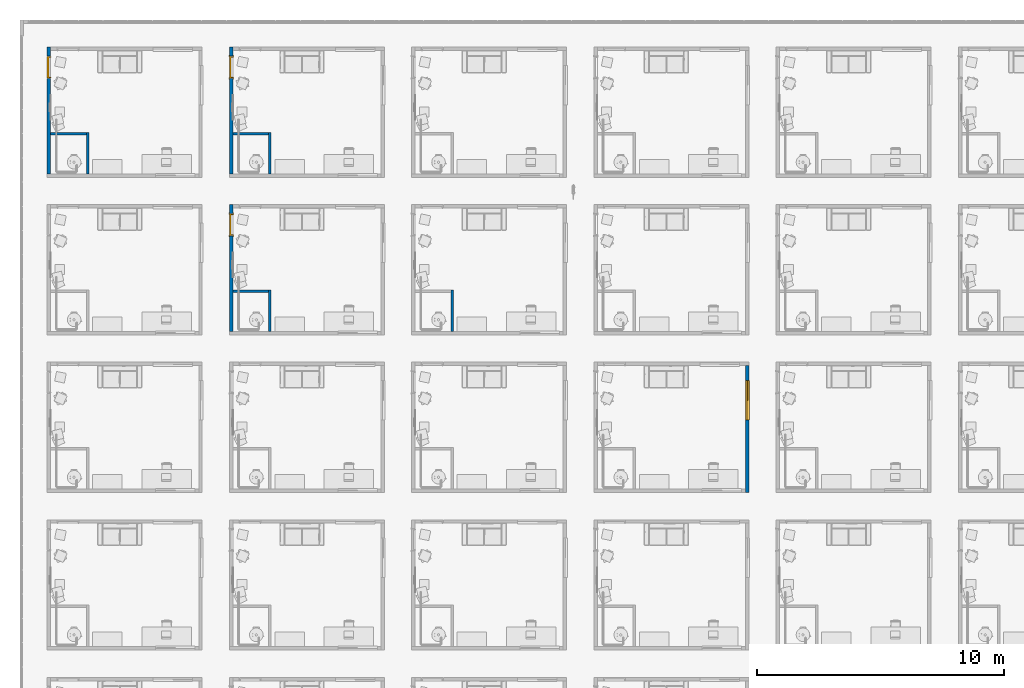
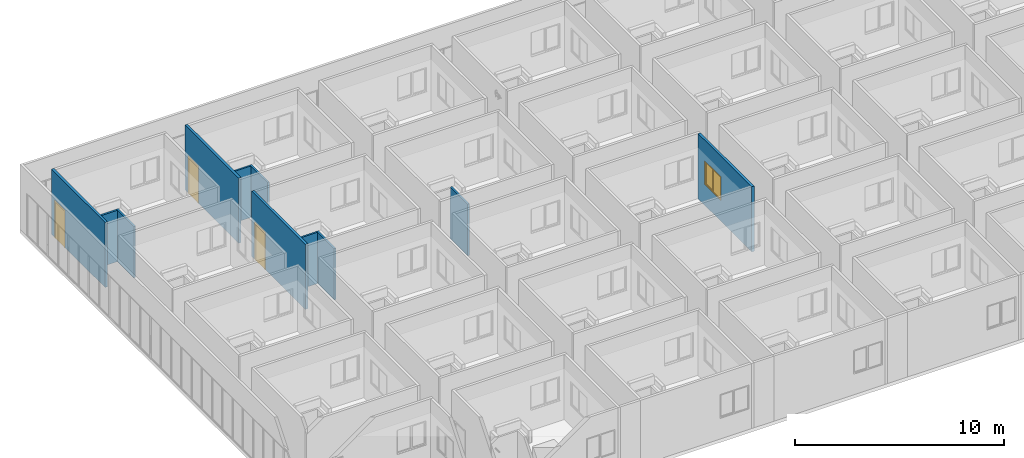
# One storey, part 7 of 69: 11 walls, 3 doors, 1 window, 4 openings.
"""IFC4 building model written with IfcOpenShell, lengths in centimetres."""

from ifc_helpers import new_model, entity, si_unit, converted_unit, derived_unit, direction, frame, origin, place, context, subcontext, project, spatial, indexed_curve, outline, extrude, polygons, source, transform, mapped, material, constituent, constituent_set, type_object, type_shapes, element, fill, save


model = new_model("IFC4")

# Units and contexts
model_context = context("Model", 3, precision=0.001, world=origin(), true_north=direction((6.123233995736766e-17, 1.0)))
body_context = subcontext(model_context, "Body", "Model", "MODEL_VIEW")
ifc_project = project(units=[si_unit("LENGTHUNIT", "METRE", prefix="CENTI"), si_unit("AREAUNIT", "SQUARE_METRE"), si_unit("VOLUMEUNIT", "CUBIC_METRE"), derived_unit("THERMALTRANSMITTANCEUNIT", [(si_unit("MASSUNIT", "GRAM", prefix="KILO"), 1), (si_unit("THERMODYNAMICTEMPERATUREUNIT", "KELVIN"), -1), (si_unit("TIMEUNIT", "SECOND"), -3)]), converted_unit("PLANEANGLEUNIT", "DEGREE", entity("IfcPlaneAngleMeasure", 0.017453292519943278), si_unit("PLANEANGLEUNIT", "RADIAN"), dimensions=[0, 0, 0, 0, 0, 0, 0]), derived_unit("MASSDENSITYUNIT", [(si_unit("MASSUNIT", "GRAM", prefix="KILO"), 1), (si_unit("LENGTHUNIT", "METRE"), -3)]), derived_unit("VAPORPERMEABILITYUNIT", [(si_unit("LENGTHUNIT", "METRE"), -1), (si_unit("TIMEUNIT", "SECOND"), 1)]), derived_unit("USERDEFINED", [(si_unit("MASSUNIT", "GRAM", prefix="KILO"), 1), (si_unit("TIMEUNIT", "SECOND"), -3), (si_unit("LENGTHUNIT", "METRE"), 3), (si_unit("ELECTRICCURRENTUNIT", "AMPERE"), -2)]), derived_unit("SPECIFICHEATCAPACITYUNIT", [(si_unit("THERMODYNAMICTEMPERATUREUNIT", "KELVIN"), -1), (si_unit("LENGTHUNIT", "METRE"), 2), (si_unit("TIMEUNIT", "SECOND"), -2)]), derived_unit("THERMALCONDUCTANCEUNIT", [(si_unit("MASSUNIT", "GRAM", prefix="KILO"), 1), (si_unit("THERMODYNAMICTEMPERATUREUNIT", "KELVIN"), -1), (si_unit("TIMEUNIT", "SECOND"), -3), (si_unit("LENGTHUNIT", "METRE"), 1)]), si_unit("PRESSUREUNIT", "PASCAL"), derived_unit("MODULUSOFELASTICITYUNIT", [(si_unit("MASSUNIT", "GRAM", prefix="KILO"), 1), (si_unit("LENGTHUNIT", "METRE"), -1), (si_unit("TIMEUNIT", "SECOND"), -2)]), derived_unit("THERMALEXPANSIONCOEFFICIENTUNIT", [(si_unit("THERMODYNAMICTEMPERATUREUNIT", "KELVIN"), -1)])], contexts=[model_context])

# Site, building, storey
site_placement = place(None, origin())
site = spatial("IfcSite", under=ifc_project, at=site_placement, Name="Default", CompositionType="ELEMENT")
building_placement = place(site_placement, origin())
building = spatial("IfcBuilding", under=site, at=building_placement, Name="IDS Escape Game Building", CompositionType="ELEMENT")
storey_placement = place(building_placement, origin())
storey = spatial("IfcBuildingStorey", under=building, at=storey_placement, Name="00_Ground Floor", CompositionType="ELEMENT", Elevation=0.0)

# Wall, opening, window
ifc_material_1 = material(Name="ARC_FME.g2_Fg2 Masonry_00_gen_BERSnl", Category="g - klei")
wall_type_1 = type_object("IfcWallType", Name="Basic Wall:ARC_22.10_WA_LB_SB14_gen_BERSnl", PredefinedType="STANDARD")
wall_1_placement = place(storey_placement, frame((2828.0, 1275.0, 0.0), z_axis=(0.0, 0.0, 1.0), x_axis=(0.0, 1.0, 0.0)))
wall_1 = element("IfcWall", 1, at=wall_1_placement, inside=storey, type_object=wall_type_1, material=ifc_material_1, Name="Basic Wall:ARC_22.10_WA_LB_SB14_gen_BERSnl", ObjectType="Basic Wall:ARC_22.10_WA_LB_SB14_gen_BERSnl", PredefinedType="NOTDEFINED", context=body_context, shape_type="Tessellation", body=[
    polygons([(0.0, -6.999999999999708, 0.0), (514.0000000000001, -6.999999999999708, 0.0), (514.0000000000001, -6.999999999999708, 380.0), (0.0, -6.999999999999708, 380.0), (454.0000000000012, -6.999999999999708, 260.00000000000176), (454.00000000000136, -6.999999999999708, 120.0), (294.00000000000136, -6.999999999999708, 120.00000000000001), (294.00000000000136, -6.999999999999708, 260.00000000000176), (454.00000000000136, 7.000000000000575, 120.0), (454.00000000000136, 7.000000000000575, 260.0000000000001), (294.00000000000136, 7.000000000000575, 260.0000000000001), (294.00000000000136, 7.000000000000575, 120.00000000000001), (0.0, 7.000000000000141, 0.0), (0.0, 7.000000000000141, 380.0), (14.000000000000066, 7.000000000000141, 380.0), (514.0000000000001, 7.000000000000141, 380.0), (514.0000000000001, 7.000000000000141, 0.0), (14.000000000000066, 7.000000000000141, 0.0)], [[[1, 2, 3, 4], [5, 6, 7, 8]], [[13, 14, 15, 16, 17, 18], [9, 10, 11, 12]], [[2, 1, 13, 18, 17]], [[4, 3, 16, 15, 14]], [[10, 9, 6, 5]], [[7, 12, 11, 8]], [[10, 5, 8, 11]], [[12, 7, 6, 9]], [[1, 4, 14, 13]], [[3, 2, 17, 16]]], closed=True),
])
opening_1_placement = place(wall_1_placement, frame((-1275.0, 2828.0, 120.0), z_axis=(0.0, 0.0, 1.0), x_axis=(0.0, -1.0, 0.0)))
opening_1 = element("IfcOpeningElement", 2, at=opening_1_placement, cuts=wall_1, Name="Basic Wall:ARC_22.10_WA_LB_SB14_gen_BERSnl", PredefinedType="OPENING", context=body_context, shape_type="Tessellation", body=[
    polygons([(2820.999999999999, 1729.0000000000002, 0.0), (2820.999999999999, 1729.0000000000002, -1.0), (2815.999999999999, 1729.0000000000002, -1.0), (2815.999999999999, 1729.0000000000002, 0.0), (2820.999999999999, 1569.0000000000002, 0.0), (2815.999999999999, 1569.0000000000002, 0.0), (2815.999999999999, 1569.0000000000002, -1.0), (2820.999999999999, 1569.0000000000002, -1.0), (2820.9999999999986, 1724.0000000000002, 0.0), (2820.9999999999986, 1574.0000000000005, 0.0), (2815.9999999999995, 1574.0000000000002, 0.0), (2815.999999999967, 1574.0000000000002, 134.9999999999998), (2815.999999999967, 1724.0000000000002, 134.9999999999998), (2815.9999999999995, 1724.0000000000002, 0.0), (2840.036825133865, 1729.0000000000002, 0.0), (2820.999999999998, 1729.0000000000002, 0.0), (2820.999999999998, 1729.0000000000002, 140.00000000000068), (2840.036825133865, 1729.0000000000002, 140.00000000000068), (2840.036825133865, 1569.0000000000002, 140.0000000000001), (2820.999999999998, 1569.0000000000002, 140.0000000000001), (2820.9999999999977, 1569.0000000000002, 0.0), (2840.036825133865, 1569.0000000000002, 0.0), (2820.999999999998, 1724.0000000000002, 134.9999999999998), (2820.999999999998, 1574.0000000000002, 134.9999999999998)], [[[1, 2, 3, 4]], [[5, 6, 7, 8]], [[1, 9, 10, 5, 8, 2]], [[2, 8, 7, 3]], [[3, 7, 6, 11, 12, 13, 14, 4]], [[4, 14, 9, 1]], [[15, 16, 17, 18]], [[19, 20, 21, 22]], [[18, 17, 20, 19]], [[18, 19, 22, 15]], [[17, 16, 9, 23, 24, 10, 21, 20]], [[22, 21, 10, 9, 16, 15]], [[11, 10, 24, 12]], [[13, 23, 9, 14]], [[12, 24, 23, 13]], [[5, 10, 11, 6]]], closed=True),
])
ifc_material_2 = material(Name="<Unnamed>")
ifc_constituent_1 = constituent(ifc_material_2, Name="<Unnamed>", fraction=0.0)
ifc_material_3 = material(Name="ARC_FME.o1_glass_00_gen_BERSnl", Category="o - glas")
ifc_constituent_2 = constituent(ifc_material_3, Name="ARC_FME.o1_glass_00_gen_BERSnl", Category="o - glas", fraction=1.0)
ifc_constituent_set_1 = constituent_set(constituents=[ifc_constituent_1, ifc_constituent_2])
ifc_constituent_3 = constituent(ifc_material_2, Name="BE Tablet", fraction=0.0)
ifc_constituent_4 = constituent(ifc_material_2, Name="Frame/Mullion", fraction=0.0)
ifc_constituent_5 = constituent(ifc_material_3, Name="Glass", Category="o - glas", fraction=1.0)
ifc_constituent_set_2 = constituent_set(constituents=[ifc_constituent_3, ifc_constituent_4, ifc_constituent_5])
window_type = type_object("IfcWindowType", Name="ARC_31_WI_WB_Dubbel Raam-Recht-Vast en Draaiend_gen_BERSnl:Links-Draaiend / Rechts-Draaiend", PartitioningType="NOTDEFINED", PredefinedType="WINDOW", material=ifc_constituent_set_2)
shared_shape_1 = source(origin(), body_context, "Body", "Tessellation", [
    extrude(outline(indexed_curve([(-80.00000000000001, -4.999999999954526), (80.00000000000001, -4.999999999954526), (80.00000000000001, 4.999999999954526), (-80.00000000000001, 4.999999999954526), (-80.00000000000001, -4.999999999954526)], self_intersect=False)), frame((80.0, 7.036825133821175, 1.0), z_axis=(0.0, 0.0, 1.0), x_axis=(-1.0, 0.0, 0.0)), (0.0, 0.0, 1.0), 2.000000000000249),
    extrude(outline(indexed_curve([(-2.9999999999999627, -3.000000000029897), (-7.656209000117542e-14, -3.000000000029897), (-7.064016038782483e-14, 5.979964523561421e-11), (3.0000000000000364, 5.978991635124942e-11), (3.0000000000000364, 2.9999999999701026), (-2.9999999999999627, 2.9999999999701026), (-2.9999999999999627, -3.000000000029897)], self_intersect=False)), frame((80.0, 15.03682513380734, 7.0)), (0.0, 0.0, 1.0), 128.00000000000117),
    extrude(outline(indexed_curve([(-35.499999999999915, -1.2000000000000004), (35.499999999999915, -1.2000000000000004), (35.49999999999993, 1.2), (-35.499999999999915, 1.2), (-35.499999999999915, -1.2000000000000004)], self_intersect=False)), frame((41.50000000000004, 15.036825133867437, 7.0), z_axis=(0.0, 0.0, 1.0), x_axis=(-1.0, 0.0, 0.0)), (0.0, 0.0, 1.0), 128.000000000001),
    extrude(outline(indexed_curve([(-67.00000000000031, -38.500000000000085), (67.00000000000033, -38.5000000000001), (67.00000000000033, 38.50000000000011), (-67.00000000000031, 38.50000000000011), (-67.00000000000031, -38.500000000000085)], self_intersect=False), holes=[indexed_curve([(61.00000000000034, -32.50000000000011), (-61.00000000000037, -32.500000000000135), (-61.00000000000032, 32.50000000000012), (61.00000000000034, 32.50000000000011), (61.00000000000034, -32.50000000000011)], self_intersect=False)]), frame((118.5, 9.03682513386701, 71.0), z_axis=(0.0, 1.0, 0.0), x_axis=(0.0, 0.0, -1.0)), (0.0, 0.0, 1.0), 6.0),
    extrude(outline(indexed_curve([(-32.500000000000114, -1.2000000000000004), (32.500000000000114, -1.2000000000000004), (32.500000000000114, 1.2000000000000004), (-32.500000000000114, 1.2000000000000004), (-32.500000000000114, -1.2000000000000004)], self_intersect=False)), frame((118.5, 12.036825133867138, 10.0), z_axis=(0.0, 0.0, 1.0), x_axis=(-1.0, 0.0, 0.0)), (0.0, 0.0, 1.0), 122.00000000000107),
    polygons([(160.00000000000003, 18.03682513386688, 141.00000000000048), (160.00000000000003, 18.03682513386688, 1.0000000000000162), (4.0607517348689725e-14, 18.036825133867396, 1.0000000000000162), (4.0607517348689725e-14, 18.036825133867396, 141.00000000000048), (6.000000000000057, 18.03682513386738, 135.00000000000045), (6.000000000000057, 18.03682513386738, 7.000000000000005), (76.99999999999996, 18.03682513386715, 7.000000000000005), (154.00000000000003, 18.0368251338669, 7.000000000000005), (154.00000000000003, 18.0368251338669, 135.00000000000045), (76.99999999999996, 18.03682513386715, 135.00000000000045), (160.0, 12.03682513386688, 141.00000000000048), (160.0, 12.03682513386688, 1.0000000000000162), (2.7071678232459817e-14, 12.036825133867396, 1.0000000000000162), (2.7071678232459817e-14, 12.036825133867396, 141.00000000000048), (6.000000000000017, 12.036825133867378, 135.00000000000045), (6.000000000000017, 12.036825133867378, 7.000000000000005), (76.99999999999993, 12.036825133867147, 7.000000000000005), (79.99999999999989, 12.036825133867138, 7.000000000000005), (79.9999999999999, 15.036825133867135, 7.000000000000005), (154.00000000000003, 15.0368251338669, 7.000000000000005), (154.00000000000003, 15.036825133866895, 135.00000000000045), (76.99999999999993, 12.036825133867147, 135.00000000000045), (79.99999999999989, 12.036825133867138, 135.00000000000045), (79.99999999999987, 12.036825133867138, 138.00000000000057), (157.00000000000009, 12.036825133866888, 138.00000000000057), (157.00000000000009, 12.036825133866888, 3.9999999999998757), (79.99999999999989, 12.036825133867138, 3.9999999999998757), (157.0000000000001, 15.036825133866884, 3.9999999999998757), (157.0000000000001, 15.036825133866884, 138.00000000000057), (79.99999999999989, 15.036825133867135, 3.9999999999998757), (79.99999999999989, 15.036825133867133, 138.00000000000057), (79.99999999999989, 15.036825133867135, 135.00000000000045)], [[[1, 2, 3, 4], [5, 6, 7, 8, 9, 10]], [[2, 1, 11, 12]], [[3, 2, 12, 13]], [[4, 3, 13, 14]], [[6, 5, 15, 16]], [[6, 16, 17, 18, 19, 20, 8, 7]], [[9, 8, 20, 21]], [[11, 14, 13, 12], [16, 15, 22, 23, 24, 25, 26, 27, 18, 17]], [[28, 26, 25, 29]], [[30, 27, 26, 28]], [[31, 24, 23, 32]], [[30, 28, 29, 31, 32, 21, 20, 19]], [[1, 4, 14, 11]], [[15, 5, 10, 9, 21, 32, 23, 22]], [[24, 31, 29, 25]], [[27, 30, 19, 18]]], closed=True),
])
type_shapes(window_type, [shared_shape_1])
window_placement = place(opening_1_placement, frame((2840.036825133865, 1569.0, -1.0), z_axis=(0.0, 0.0, 1.0), x_axis=(0.0, 1.0, 0.0)))
window = element("IfcWindow", 3, at=window_placement, inside=storey, type_object=window_type, material=ifc_constituent_set_1, Name="ARC_31_WI_WB_Dubbel Raam-Recht-Vast en Draaiend_gen_BERSnl:Links-Draaiend / Rechts-Draaiend", ObjectType="ARC_31_WI_WB_Dubbel Raam-Recht-Vast en Draaiend_gen_BERSnl:Links-Draaiend / Rechts-Draaiend", OverallHeight=140.00000000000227, OverallWidth=160.0000000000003, PartitioningType="NOTDEFINED", PredefinedType="WINDOW", context=body_context, shape_type="MappedRepresentation", body=[
    mapped(shared_shape_1, transform((0.0, 0.0, 0.0), scale=1.0)),
])
fill(opening_1, window)

# Wall, opening, door
wall_2_placement = place(storey_placement, frame((738.0, 2441.0, 0.0), z_axis=(0.0, 0.0, 1.0), x_axis=(0.0, -1.0, 0.0)))
wall_2 = element("IfcWall", 4, at=wall_2_placement, inside=storey, type_object=wall_type_1, material=ifc_material_1, Name="Basic Wall:ARC_22.10_WA_LB_SB14_gen_BERSnl", ObjectType="Basic Wall:ARC_22.10_WA_LB_SB14_gen_BERSnl", PredefinedType="NOTDEFINED", context=body_context, shape_type="Tessellation", body=[
    polygons([(513.9999999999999, -6.9999999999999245, 380.0), (0.0, -6.9999999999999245, 380.0), (0.0, -6.9999999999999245, 0.0), (35.99999999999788, -6.9999999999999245, 0.0), (35.99999999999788, -6.9999999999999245, 215.00000000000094), (125.99999999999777, -6.9999999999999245, 215.00000000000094), (125.99999999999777, -6.9999999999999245, 0.0), (513.9999999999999, -6.9999999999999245, 0.0), (0.0, 7.000000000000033, 380.0), (13.999999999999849, 7.000000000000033, 380.0), (513.9999999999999, 7.000000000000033, 380.0), (513.9999999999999, 7.000000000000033, 0.0), (355.9999999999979, 7.000000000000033, 0.0), (345.999999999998, 7.000000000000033, 0.0), (125.99999999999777, 7.000000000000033, 0.0), (125.99999999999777, 7.000000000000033, 215.00000000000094), (35.99999999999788, 7.000000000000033, 215.00000000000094), (35.99999999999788, 7.000000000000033, 0.0), (13.999999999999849, 7.000000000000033, 0.0), (0.0, 7.000000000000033, 0.0)], [[[1, 2, 3, 4, 5, 6, 7, 8]], [[9, 10, 11, 12, 13, 14, 15, 16, 17, 18, 19, 20]], [[3, 20, 19, 18, 4]], [[2, 1, 11, 10, 9]], [[17, 5, 4, 18]], [[6, 16, 15, 7]], [[5, 17, 16, 6]], [[3, 2, 9, 20]], [[1, 8, 12, 11]], [[12, 8, 7, 15, 14, 13]]], closed=True),
])
opening_2_placement = place(wall_2_placement, frame((2441.0, -738.0, 0.0), z_axis=(0.0, 0.0, 1.0), x_axis=(0.0, 1.0, 0.0)))
opening_2 = element("IfcOpeningElement", 5, at=opening_2_placement, cuts=wall_2, Name="Basic Wall:ARC_22.10_WA_LB_SB14_gen_BERSnl", PredefinedType="OPENING", context=body_context, shape_type="SweptSolid", body=[
    extrude(outline(indexed_curve([(-137.49999999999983, -44.99999999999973), (137.49999999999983, -44.99999999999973), (137.49999999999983, 45.00000000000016), (-137.49999999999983, 45.00000000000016), (-137.49999999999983, -44.99999999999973)], self_intersect=False)), frame((648.0, 2360.0, 77.50000000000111), z_axis=(1.0, 0.0, 0.0), x_axis=(0.0, 0.0, 1.0)), (0.0, 0.0, 1.0), 165.99999999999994),
])
ifc_material_4 = material(Name="ARC_FME.i3_wood_00_gen_BERSnl", Category="i - hout")
door_type = type_object("IfcDoorType", Name="ARC_32.30_DO_WB_binnendeur enkel draaiend met void_gen_BERSnl:Fire Exit_830x2115_EI60", OperationType="SINGLE_SWING_RIGHT", PredefinedType="DOOR", material=ifc_material_4)
shared_shape_2 = source(origin(), body_context, "Body", "Tessellation", [
    extrude(outline(indexed_curve([(-41.49999999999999, -3.749999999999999), (41.49999999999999, -3.749999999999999), (41.49999999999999, 3.75), (-41.49999999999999, 3.75), (-41.49999999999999, -3.749999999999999)], self_intersect=False)), frame((45.0, 79.24999999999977, 60.0), z_axis=(0.0, 0.0, 1.0), x_axis=(-1.0, 0.0, 0.0)), (0.0, 0.0, 1.0), 211.50000000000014),
    polygons([(88.99999999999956, 82.99999999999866, 59.999999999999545), (88.9999999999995, 67.99999999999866, 59.999999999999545), (94.99999999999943, 67.99999999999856, 59.999999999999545), (94.99999999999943, 66.49999999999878, 59.999999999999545), (84.99999999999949, 66.4999999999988, 59.999999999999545), (84.99999999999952, 75.49999999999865, 59.999999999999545), (86.49999999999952, 75.49999999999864, 59.999999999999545), (86.49999999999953, 84.49999999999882, 59.999999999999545), (94.99999999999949, 84.49999999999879, 59.999999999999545), (94.99999999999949, 82.99999999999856, 59.999999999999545), (88.99999999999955, 82.99999999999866, 274.0000000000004), (88.9999999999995, 67.99999999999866, 274.0000000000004), (0.9999999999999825, 67.99999999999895, 274.0000000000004), (0.9999999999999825, 67.99999999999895, 59.99999999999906), (-4.999999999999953, 67.99999999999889, 59.99999999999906), (-4.999999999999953, 67.99999999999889, 280.00000000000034), (94.99999999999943, 67.99999999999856, 280.00000000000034), (94.99999999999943, 66.49999999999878, 280.00000000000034), (-4.999999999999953, 66.4999999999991, 280.00000000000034), (-4.999999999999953, 66.4999999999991, 59.99999999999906), (4.999999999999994, 66.49999999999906, 59.99999999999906), (4.999999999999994, 66.49999999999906, 270.00000000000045), (84.99999999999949, 66.4999999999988, 270.00000000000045), (84.99999999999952, 75.49999999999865, 270.00000000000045), (5.000000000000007, 75.4999999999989, 270.00000000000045), (5.0, 75.4999999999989, 59.99999999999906), (3.5000000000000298, 75.4999999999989, 59.99999999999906), (3.500000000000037, 75.4999999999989, 271.50000000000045), (86.4999999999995, 75.49999999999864, 271.50000000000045), (86.49999999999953, 84.49999999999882, 271.50000000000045), (3.5000000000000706, 84.49999999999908, 271.50000000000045), (3.500000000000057, 84.49999999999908, 59.99999999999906), (-4.999999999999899, 84.4999999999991, 59.99999999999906), (-4.999999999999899, 84.4999999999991, 280.00000000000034), (94.99999999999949, 84.49999999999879, 280.00000000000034), (94.99999999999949, 82.99999999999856, 280.00000000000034), (-4.999999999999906, 82.99999999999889, 280.00000000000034), (-4.999999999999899, 82.99999999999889, 59.99999999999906), (1.0000000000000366, 82.99999999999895, 59.99999999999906), (1.0000000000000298, 82.99999999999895, 274.0000000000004)], [[[1, 2, 3, 4, 5, 6, 7, 8, 9, 10]], [[2, 1, 11, 12]], [[3, 2, 12, 13, 14, 15, 16, 17]], [[4, 3, 17, 18]], [[5, 4, 18, 19, 20, 21, 22, 23]], [[6, 5, 23, 24]], [[7, 6, 24, 25, 26, 27, 28, 29]], [[8, 7, 29, 30]], [[9, 8, 30, 31, 32, 33, 34, 35]], [[10, 9, 35, 36]], [[1, 10, 36, 37, 38, 39, 40, 11]], [[37, 34, 33, 38]], [[39, 38, 33, 32, 27, 26, 21, 20, 15, 14]], [[13, 40, 39, 14]], [[31, 28, 27, 32]], [[25, 22, 21, 26]], [[19, 16, 15, 20]], [[36, 35, 34, 37]], [[30, 29, 28, 31]], [[24, 23, 22, 25]], [[18, 17, 16, 19]], [[12, 11, 40, 13]]], closed=True),
])
type_shapes(door_type, [shared_shape_2])
door_1_placement = place(opening_2_placement, frame((814.0, 2315.0, -60.0), z_axis=(0.0, 0.0, 1.0), x_axis=(0.0, 1.0, 0.0)))
door_1 = element("IfcDoor", 6, at=door_1_placement, inside=storey, type_object=door_type, material=ifc_material_4, Name="ARC_32.30_DO_WB_binnendeur enkel draaiend met void_gen_BERSnl:Fire Exit_830x2115_EI60", ObjectType="ARC_32.30_DO_WB_binnendeur enkel draaiend met void_gen_BERSnl:Fire Exit_830x2115_EI60", OverallHeight=274.99999999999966, OverallWidth=89.9999999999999, PredefinedType="DOOR", context=body_context, shape_type="MappedRepresentation", body=[
    mapped(shared_shape_2, transform((0.0, 0.0, 0.0), scale=1.0)),
])
fill(opening_2, door_1)

wall_3_placement = place(storey_placement, frame((0.0, 3079.0, 0.0), z_axis=(0.0, 0.0, 1.0), x_axis=(0.0, -1.0, 0.0)))
wall_3 = element("IfcWall", 7, at=wall_3_placement, inside=storey, type_object=wall_type_1, material=ifc_material_1, Name="Basic Wall:ARC_22.10_WA_LB_SB14_gen_BERSnl", ObjectType="Basic Wall:ARC_22.10_WA_LB_SB14_gen_BERSnl", PredefinedType="NOTDEFINED", context=body_context, shape_type="Tessellation", body=[
    polygons([(513.9999999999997, -7.0, 380.0), (0.0, -7.0, 380.0), (0.0, -7.0, 0.0), (35.99999999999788, -7.0, 0.0), (35.99999999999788, -7.000000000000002, 215.00000000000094), (125.99999999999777, -7.000000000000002, 215.00000000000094), (125.99999999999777, -7.0, 0.0), (513.9999999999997, -7.0, 0.0), (0.0, 7.0, 380.0), (13.999999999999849, 7.0, 380.0), (513.9999999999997, 7.0, 380.0), (513.9999999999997, 7.0, 0.0), (355.9999999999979, 7.0, 0.0), (345.999999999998, 7.0, 0.0), (125.99999999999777, 7.0, 0.0), (125.99999999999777, 6.9999999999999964, 215.00000000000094), (35.99999999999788, 7.000000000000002, 215.00000000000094), (35.99999999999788, 6.999999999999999, 0.0), (13.999999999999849, 7.0, 0.0), (0.0, 7.0, 0.0)], [[[1, 2, 3, 4, 5, 6, 7, 8]], [[9, 10, 11, 12, 13, 14, 15, 16, 17, 18, 19, 20]], [[3, 20, 19, 18, 4]], [[2, 1, 11, 10, 9]], [[17, 5, 4, 18]], [[6, 16, 15, 7]], [[5, 17, 16, 6]], [[3, 2, 9, 20]], [[1, 8, 12, 11]], [[12, 8, 7, 15, 14, 13]]], closed=True),
])
opening_3_placement = place(wall_3_placement, frame((3079.0, 0.0, 0.0), z_axis=(0.0, 0.0, 1.0), x_axis=(0.0, 1.0, 0.0)))
opening_3 = element("IfcOpeningElement", 8, at=opening_3_placement, cuts=wall_3, Name="Basic Wall:ARC_22.10_WA_LB_SB14_gen_BERSnl", PredefinedType="OPENING", context=body_context, shape_type="SweptSolid", body=[
    extrude(outline(indexed_curve([(-137.49999999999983, -44.99999999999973), (137.49999999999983, -44.99999999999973), (137.49999999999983, 45.00000000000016), (-137.49999999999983, 45.00000000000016), (-137.49999999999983, -44.99999999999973)], self_intersect=False)), frame((-90.0, 2998.0, 77.50000000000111), z_axis=(1.0, 0.0, 0.0), x_axis=(0.0, 0.0, 1.0)), (0.0, 0.0, 1.0), 166.0),
])
door_2_placement = place(opening_3_placement, frame((76.0, 2953.0, -60.0), z_axis=(0.0, 0.0, 1.0), x_axis=(0.0, 1.0, 0.0)))
door_2 = element("IfcDoor", 9, at=door_2_placement, inside=storey, type_object=door_type, material=ifc_material_4, Name="ARC_32.30_DO_WB_binnendeur enkel draaiend met void_gen_BERSnl:Fire Exit_830x2115_EI60", ObjectType="ARC_32.30_DO_WB_binnendeur enkel draaiend met void_gen_BERSnl:Fire Exit_830x2115_EI60", OverallHeight=274.99999999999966, OverallWidth=89.9999999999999, PredefinedType="DOOR", context=body_context, shape_type="MappedRepresentation", body=[
    mapped(shared_shape_2, transform((0.0, 0.0, 0.0), scale=1.0)),
])
fill(opening_3, door_2)

wall_4_placement = place(storey_placement, frame((738.0, 3079.0, 0.0), z_axis=(0.0, 0.0, 1.0), x_axis=(0.0, -1.0, 0.0)))
wall_4 = element("IfcWall", 10, at=wall_4_placement, inside=storey, type_object=wall_type_1, material=ifc_material_1, Name="Basic Wall:ARC_22.10_WA_LB_SB14_gen_BERSnl", ObjectType="Basic Wall:ARC_22.10_WA_LB_SB14_gen_BERSnl", PredefinedType="NOTDEFINED", context=body_context, shape_type="Tessellation", body=[
    polygons([(513.9999999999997, -6.9999999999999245, 380.0), (0.0, -6.9999999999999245, 380.0), (0.0, -6.9999999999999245, 0.0), (35.999999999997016, -6.9999999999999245, 0.0), (35.999999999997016, -6.9999999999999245, 215.00000000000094), (125.99999999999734, -6.9999999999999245, 215.00000000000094), (125.99999999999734, -6.9999999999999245, 0.0), (513.9999999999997, -6.9999999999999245, 0.0), (0.0, 7.000000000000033, 380.0), (13.999999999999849, 7.000000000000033, 380.0), (513.9999999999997, 7.000000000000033, 380.0), (513.9999999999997, 7.000000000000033, 0.0), (355.9999999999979, 7.000000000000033, 0.0), (345.999999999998, 7.000000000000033, 0.0), (125.99999999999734, 7.000000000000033, 0.0), (125.99999999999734, 7.000000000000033, 215.00000000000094), (35.999999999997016, 7.000000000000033, 215.00000000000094), (35.999999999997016, 7.000000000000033, 0.0), (13.999999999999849, 7.000000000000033, 0.0), (0.0, 7.000000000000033, 0.0)], [[[1, 2, 3, 4, 5, 6, 7, 8]], [[9, 10, 11, 12, 13, 14, 15, 16, 17, 18, 19, 20]], [[3, 20, 19, 18, 4]], [[2, 1, 11, 10, 9]], [[17, 5, 4, 18]], [[6, 16, 15, 7]], [[5, 17, 16, 6]], [[3, 2, 9, 20]], [[1, 8, 12, 11]], [[12, 8, 7, 15, 14, 13]]], closed=True),
])
opening_4_placement = place(wall_4_placement, frame((3079.0, -738.0, 0.0), z_axis=(0.0, 0.0, 1.0), x_axis=(0.0, 1.0, 0.0)))
opening_4 = element("IfcOpeningElement", 11, at=opening_4_placement, cuts=wall_4, Name="Basic Wall:ARC_22.10_WA_LB_SB14_gen_BERSnl", PredefinedType="OPENING", context=body_context, shape_type="SweptSolid", body=[
    extrude(outline(indexed_curve([(-137.49999999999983, -44.99999999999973), (137.49999999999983, -44.99999999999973), (137.49999999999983, 45.00000000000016), (-137.49999999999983, 45.00000000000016), (-137.49999999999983, -44.99999999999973)], self_intersect=False)), frame((648.0, 2998.0, 77.50000000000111), z_axis=(1.0, 0.0, 0.0), x_axis=(0.0, 0.0, 1.0)), (0.0, 0.0, 1.0), 165.99999999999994),
])
door_3_placement = place(opening_4_placement, frame((814.0, 2953.0, -60.0), z_axis=(0.0, 0.0, 1.0), x_axis=(0.0, 1.0, 0.0)))
door_3 = element("IfcDoor", 12, at=door_3_placement, inside=storey, type_object=door_type, material=ifc_material_4, Name="ARC_32.30_DO_WB_binnendeur enkel draaiend met void_gen_BERSnl:Fire Exit_830x2115_EI60", ObjectType="ARC_32.30_DO_WB_binnendeur enkel draaiend met void_gen_BERSnl:Fire Exit_830x2115_EI60", OverallHeight=274.99999999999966, OverallWidth=89.9999999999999, PredefinedType="DOOR", context=body_context, shape_type="MappedRepresentation", body=[
    mapped(shared_shape_2, transform((0.0, 0.0, 0.0), scale=1.0)),
])
fill(opening_4, door_3)

# Walls
ifc_material_5 = material(Name="ARC_FME.r2_Plaster_white_gen_BERSnl", Category="r - klei, gips, magnesium en kunststof bindmiddelen")
wall_type_2 = type_object("IfcWallType", Name="Basic Wall:ARC_22.10_WA_LB_GPS10_gen_BERSnl", PredefinedType="STANDARD")
wall_5_placement = place(storey_placement, frame((895.0, 1927.0, 0.0), z_axis=(0.0, 0.0, 1.0), x_axis=(0.0, 1.0, 0.0)))
element("IfcWall", 13, at=wall_5_placement, inside=storey, type_object=wall_type_2, material=ifc_material_5, Name="Basic Wall:ARC_22.10_WA_LB_GPS10_gen_BERSnl", ObjectType="Basic Wall:ARC_22.10_WA_LB_GPS10_gen_BERSnl", PredefinedType="NOTDEFINED", context=body_context, shape_type="SweptSolid", body=[
    extrude(outline(indexed_curve([(168.00000000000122, 4.999999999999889), (-7.956027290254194e-15, 4.999999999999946), (7.956027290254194e-15, -4.999999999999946), (168.00000000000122, -5.0000000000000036), (168.00000000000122, 4.999999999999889)], self_intersect=False)), origin(), (0.0, 0.0, 1.0), 300.0),
])
wall_6_placement = place(storey_placement, frame((890.0, 2090.0, 0.0), z_axis=(0.0, 0.0, 1.0), x_axis=(-1.0, 0.0, 0.0)))
element("IfcWall", 14, at=wall_6_placement, inside=storey, type_object=wall_type_2, material=ifc_material_5, Name="Basic Wall:ARC_22.10_WA_LB_GPS10_gen_BERSnl", ObjectType="Basic Wall:ARC_22.10_WA_LB_GPS10_gen_BERSnl", PredefinedType="NOTDEFINED", context=body_context, shape_type="SweptSolid", body=[
    extrude(outline(indexed_curve([(145.00000000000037, 5.000000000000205), (-1.6380951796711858e-14, 5.0000000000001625), (1.6380951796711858e-14, -5.0000000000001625), (145.00000000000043, -5.00000000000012), (145.00000000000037, 5.000000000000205)], self_intersect=False)), origin(), (0.0, 0.0, 1.0), 300.0),
])
wall_7_placement = place(storey_placement, frame((1633.0, 1927.0, 0.0), z_axis=(0.0, 0.0, 1.0), x_axis=(0.0, 1.0, 0.0)))
element("IfcWall", 15, at=wall_7_placement, inside=storey, type_object=wall_type_2, material=ifc_material_5, Name="Basic Wall:ARC_22.10_WA_LB_GPS10_gen_BERSnl", ObjectType="Basic Wall:ARC_22.10_WA_LB_GPS10_gen_BERSnl", PredefinedType="NOTDEFINED", context=body_context, shape_type="SweptSolid", body=[
    extrude(outline(indexed_curve([(168.00000000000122, 4.9999999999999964), (-7.956027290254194e-15, 4.999999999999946), (7.956027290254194e-15, -4.999999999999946), (168.00000000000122, -4.999999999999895), (168.00000000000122, 4.9999999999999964)], self_intersect=False)), origin(), (0.0, 0.0, 1.0), 300.0),
])
wall_8_placement = place(storey_placement, frame((157.0, 2565.0, 0.0), z_axis=(0.0, 0.0, 1.0), x_axis=(0.0, 1.0, 0.0)))
element("IfcWall", 16, at=wall_8_placement, inside=storey, type_object=wall_type_2, material=ifc_material_5, Name="Basic Wall:ARC_22.10_WA_LB_GPS10_gen_BERSnl", ObjectType="Basic Wall:ARC_22.10_WA_LB_GPS10_gen_BERSnl", PredefinedType="NOTDEFINED", context=body_context, shape_type="SweptSolid", body=[
    extrude(outline(indexed_curve([(168.00000000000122, 4.9999999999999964), (-7.956027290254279e-15, 5.0), (7.956027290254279e-15, -5.0), (168.00000000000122, -5.0000000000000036), (168.00000000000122, 4.9999999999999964)], self_intersect=False)), origin(), (0.0, 0.0, 1.0), 300.0),
])
wall_9_placement = place(storey_placement, frame((152.0, 2728.0, 0.0), z_axis=(0.0, 0.0, 1.0), x_axis=(-1.0, 0.0, 0.0)))
element("IfcWall", 17, at=wall_9_placement, inside=storey, type_object=wall_type_2, material=ifc_material_5, Name="Basic Wall:ARC_22.10_WA_LB_GPS10_gen_BERSnl", ObjectType="Basic Wall:ARC_22.10_WA_LB_GPS10_gen_BERSnl", PredefinedType="NOTDEFINED", context=body_context, shape_type="SweptSolid", body=[
    extrude(outline(indexed_curve([(145.00000000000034, 5.000000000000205), (1.0690726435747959e-14, 5.0000000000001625), (-1.0690726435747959e-14, -5.0000000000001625), (145.00000000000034, -5.00000000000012), (145.00000000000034, 5.000000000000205)], self_intersect=False)), origin(), (0.0, 0.0, 1.0), 300.0),
])
wall_10_placement = place(storey_placement, frame((895.0, 2565.0, 0.0), z_axis=(0.0, 0.0, 1.0), x_axis=(0.0, 1.0, 0.0)))
element("IfcWall", 18, at=wall_10_placement, inside=storey, type_object=wall_type_2, material=ifc_material_5, Name="Basic Wall:ARC_22.10_WA_LB_GPS10_gen_BERSnl", ObjectType="Basic Wall:ARC_22.10_WA_LB_GPS10_gen_BERSnl", PredefinedType="NOTDEFINED", context=body_context, shape_type="SweptSolid", body=[
    extrude(outline(indexed_curve([(168.00000000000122, 4.999999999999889), (-7.956027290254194e-15, 4.999999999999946), (7.956027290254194e-15, -4.999999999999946), (168.00000000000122, -5.0000000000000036), (168.00000000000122, 4.999999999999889)], self_intersect=False)), origin(), (0.0, 0.0, 1.0), 300.0),
])
wall_11_placement = place(storey_placement, frame((890.0, 2728.0, 0.0), z_axis=(0.0, 0.0, 1.0), x_axis=(-1.0, 0.0, 0.0)))
element("IfcWall", 19, at=wall_11_placement, inside=storey, type_object=wall_type_2, material=ifc_material_5, Name="Basic Wall:ARC_22.10_WA_LB_GPS10_gen_BERSnl", ObjectType="Basic Wall:ARC_22.10_WA_LB_GPS10_gen_BERSnl", PredefinedType="NOTDEFINED", context=body_context, shape_type="SweptSolid", body=[
    extrude(outline(indexed_curve([(145.00000000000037, 5.000000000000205), (-1.6380951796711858e-14, 5.0000000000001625), (1.6380951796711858e-14, -5.0000000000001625), (145.00000000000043, -5.00000000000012), (145.00000000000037, 5.000000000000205)], self_intersect=False)), origin(), (0.0, 0.0, 1.0), 300.0),
])

save(model, "model.ifc")
